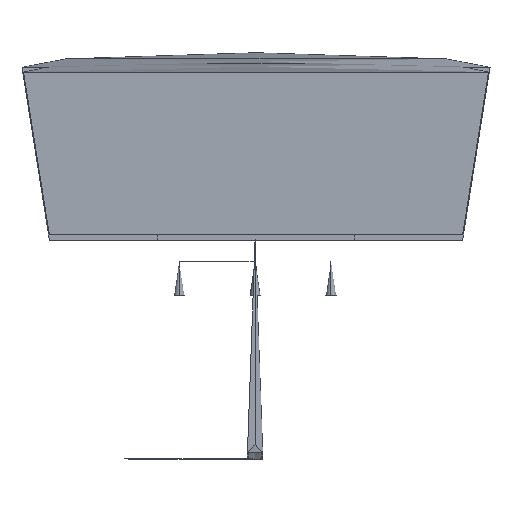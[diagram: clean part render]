
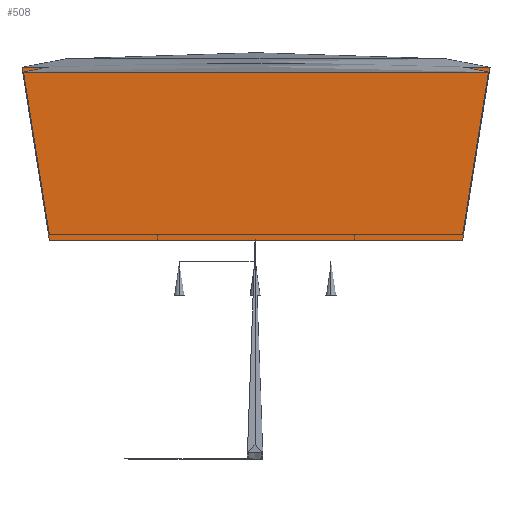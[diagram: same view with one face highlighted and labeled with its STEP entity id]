
A CAD part, left-side view. The second image highlights one B-rep face of the part: STEP entity #508.
In plain terms, the highlighted free-form (B-spline) face has degree [2, 2] with [5, 5] control points.
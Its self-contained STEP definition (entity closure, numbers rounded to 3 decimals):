
#508=ADVANCED_FACE('',(#595),#1709,.T.);
#595=FACE_OUTER_BOUND('',#682,.T.);
#682=EDGE_LOOP('',(#815,#816,#817,#818));
#815=ORIENTED_EDGE('',*,*,#1178,.T.);
#816=ORIENTED_EDGE('',*,*,#1179,.T.);
#817=ORIENTED_EDGE('',*,*,#1180,.T.);
#818=ORIENTED_EDGE('',*,*,#1181,.T.);
#1178=EDGE_CURVE('',#1583,#1584,#1406,.T.);
#1179=EDGE_CURVE('',#1584,#1585,#1407,.T.);
#1180=EDGE_CURVE('',#1585,#1586,#1408,.T.);
#1181=EDGE_CURVE('',#1586,#1583,#1409,.T.);
#1406=(
BOUNDED_CURVE()
B_SPLINE_CURVE(2,(#2196,#2197,#2198,#2199,#2200),.UNSPECIFIED.,.F.,.F.)
B_SPLINE_CURVE_WITH_KNOTS((3,2,3),(0.,362.697,725.395),
 .UNSPECIFIED.)
CURVE()
GEOMETRIC_REPRESENTATION_ITEM()
RATIONAL_B_SPLINE_CURVE((1.,0.707,1.,0.707,1.))
REPRESENTATION_ITEM('')
);
#1407=(
BOUNDED_CURVE()
B_SPLINE_CURVE(2,(#2201,#2202,#2203,#2204,#2205),.UNSPECIFIED.,.F.,.F.)
B_SPLINE_CURVE_WITH_KNOTS((3,2,3),(0.,108.055,216.11),
 .UNSPECIFIED.)
CURVE()
GEOMETRIC_REPRESENTATION_ITEM()
RATIONAL_B_SPLINE_CURVE((1.,0.76,1.,0.76,1.))
REPRESENTATION_ITEM('')
);
#1408=(
BOUNDED_CURVE()
B_SPLINE_CURVE(2,(#2206,#2207,#2208,#2209,#2210),.UNSPECIFIED.,.F.,.F.)
B_SPLINE_CURVE_WITH_KNOTS((3,2,3),(-725.395,-362.697,
0.),.UNSPECIFIED.)
CURVE()
GEOMETRIC_REPRESENTATION_ITEM()
RATIONAL_B_SPLINE_CURVE((1.,0.707,1.,0.707,1.))
REPRESENTATION_ITEM('')
);
#1409=(
BOUNDED_CURVE()
B_SPLINE_CURVE(2,(#2211,#2212,#2213,#2214,#2215),.UNSPECIFIED.,.F.,.F.)
B_SPLINE_CURVE_WITH_KNOTS((3,2,3),(-216.11,-108.055,0.),
 .UNSPECIFIED.)
CURVE()
GEOMETRIC_REPRESENTATION_ITEM()
RATIONAL_B_SPLINE_CURVE((1.,0.76,1.,0.76,1.))
REPRESENTATION_ITEM('')
);
#1583=VERTEX_POINT('',#2192);
#1584=VERTEX_POINT('',#2193);
#1585=VERTEX_POINT('',#2194);
#1586=VERTEX_POINT('',#2195);
#1709=(
BOUNDED_SURFACE()
B_SPLINE_SURFACE(2,2,((#2167,#2168,#2169,#2170,#2171),(#2172,#2173,#2174,
#2175,#2176),(#2177,#2178,#2179,#2180,#2181),(#2182,#2183,#2184,#2185,#2186),
(#2187,#2188,#2189,#2190,#2191)),.UNSPECIFIED.,.F.,.F.,.F.)
B_SPLINE_SURFACE_WITH_KNOTS((3,2,3),(3,2,3),(0.,362.697,725.395),
(0.,108.055,216.11),.UNSPECIFIED.)
GEOMETRIC_REPRESENTATION_ITEM()
RATIONAL_B_SPLINE_SURFACE(((1.,0.76,1.,0.76,1.),
(0.707,0.538,0.707,0.538,
0.707),(1.,0.76,1.,0.76,1.),(0.707,
0.538,0.707,0.538,0.707),
(1.,0.76,1.,0.76,1.)))
REPRESENTATION_ITEM('')
SURFACE()
);
#2167=CARTESIAN_POINT('',(0.034,138.149,232.373));
#2168=CARTESIAN_POINT('',(0.034,180.81,218.534));
#2169=CARTESIAN_POINT('',(0.034,173.805,174.234));
#2170=CARTESIAN_POINT('',(0.034,166.799,129.935));
#2171=CARTESIAN_POINT('',(0.034,121.949,129.935));
#2172=CARTESIAN_POINT('',(-138.656,138.149,232.373));
#2173=CARTESIAN_POINT('',(-181.314,180.81,218.534));
#2174=CARTESIAN_POINT('',(-174.309,173.805,174.234));
#2175=CARTESIAN_POINT('',(-167.304,166.799,129.935));
#2176=CARTESIAN_POINT('',(-122.457,121.949,129.935));
#2177=CARTESIAN_POINT('',(-138.665,-0.541,232.373));
#2178=CARTESIAN_POINT('',(-181.327,-0.538,218.534));
#2179=CARTESIAN_POINT('',(-174.321,-0.539,174.234));
#2180=CARTESIAN_POINT('',(-167.316,-0.539,129.935));
#2181=CARTESIAN_POINT('',(-122.466,-0.543,129.935));
#2182=CARTESIAN_POINT('',(-138.675,-139.232,232.373));
#2183=CARTESIAN_POINT('',(-181.339,-181.887,218.534));
#2184=CARTESIAN_POINT('',(-174.333,-174.883,174.234));
#2185=CARTESIAN_POINT('',(-167.327,-167.878,129.935));
#2186=CARTESIAN_POINT('',(-122.474,-123.034,129.935));
#2187=CARTESIAN_POINT('',(0.015,-139.251,232.373));
#2188=CARTESIAN_POINT('',(0.009,-181.912,218.534));
#2189=CARTESIAN_POINT('',(0.01,-174.907,174.234));
#2190=CARTESIAN_POINT('',(0.011,-167.901,129.935));
#2191=CARTESIAN_POINT('',(0.017,-123.051,129.935));
#2192=CARTESIAN_POINT('',(0.034,138.149,232.373));
#2193=CARTESIAN_POINT('',(0.015,-139.251,232.373));
#2194=CARTESIAN_POINT('',(0.017,-123.051,129.935));
#2195=CARTESIAN_POINT('',(0.034,121.949,129.935));
#2196=CARTESIAN_POINT('',(0.034,138.149,232.373));
#2197=CARTESIAN_POINT('',(-138.656,138.149,232.373));
#2198=CARTESIAN_POINT('',(-138.665,-0.541,232.373));
#2199=CARTESIAN_POINT('',(-138.675,-139.232,232.373));
#2200=CARTESIAN_POINT('',(0.015,-139.251,232.373));
#2201=CARTESIAN_POINT('',(0.015,-139.251,232.373));
#2202=CARTESIAN_POINT('',(0.009,-181.912,218.534));
#2203=CARTESIAN_POINT('',(0.01,-174.907,174.234));
#2204=CARTESIAN_POINT('',(0.011,-167.901,129.935));
#2205=CARTESIAN_POINT('',(0.017,-123.051,129.935));
#2206=CARTESIAN_POINT('',(0.017,-123.051,129.935));
#2207=CARTESIAN_POINT('',(-122.474,-123.034,129.935));
#2208=CARTESIAN_POINT('',(-122.466,-0.543,129.935));
#2209=CARTESIAN_POINT('',(-122.457,121.949,129.935));
#2210=CARTESIAN_POINT('',(0.034,121.949,129.935));
#2211=CARTESIAN_POINT('',(0.034,121.949,129.935));
#2212=CARTESIAN_POINT('',(0.034,166.799,129.935));
#2213=CARTESIAN_POINT('',(0.034,173.805,174.234));
#2214=CARTESIAN_POINT('',(0.034,180.81,218.534));
#2215=CARTESIAN_POINT('',(0.034,138.149,232.373));
